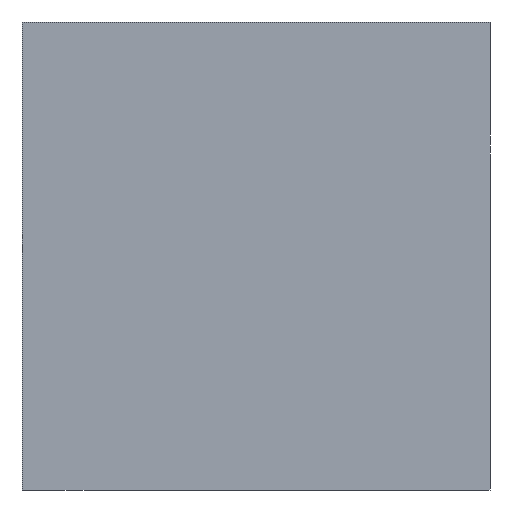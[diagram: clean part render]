
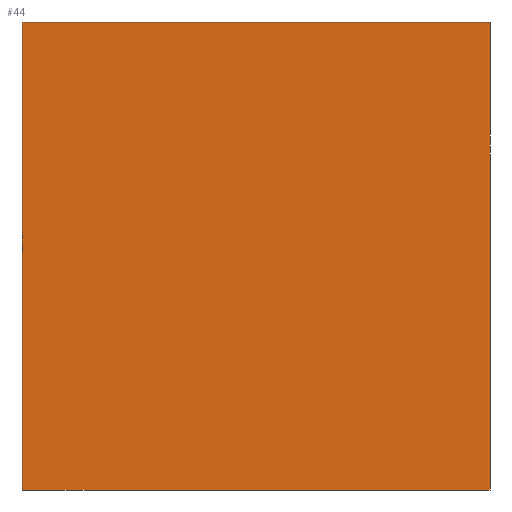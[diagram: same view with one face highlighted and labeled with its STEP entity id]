
A CAD part, front view. The second image highlights one B-rep face of the part: STEP entity #44.
In plain terms, the highlighted planar face has unit normal (0, -1, 0).
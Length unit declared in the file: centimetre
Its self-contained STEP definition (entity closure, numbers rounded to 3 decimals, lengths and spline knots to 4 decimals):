
#10 = DIRECTION ( 'NONE',  ( 0., 0., -1. ) ) ;
#22 = CARTESIAN_POINT ( 'NONE',  ( 1000., 0., 1000. ) ) ;
#44 = ADVANCED_FACE ( 'NONE', ( #73 ), #197, .F. ) ;
#56 = LINE ( 'NONE', #763, #230 ) ;
#57 = LINE ( 'NONE', #391, #677 ) ;
#66 = DIRECTION ( 'NONE',  ( 0., 0., -1. ) ) ;
#73 = FACE_OUTER_BOUND ( 'NONE', #126, .T. ) ;
#81 = CARTESIAN_POINT ( 'NONE',  ( 1000., 0., 1000. ) ) ;
#96 = DIRECTION ( 'NONE',  ( 1., 0., 0. ) ) ;
#101 = EDGE_CURVE ( 'NONE', #571, #585, #57, .T. ) ;
#126 = EDGE_LOOP ( 'NONE', ( #507, #447, #300, #466 ) ) ;
#135 = CARTESIAN_POINT ( 'NONE',  ( 0., 0., 1000. ) ) ;
#149 = LINE ( 'NONE', #81, #223 ) ;
#197 = PLANE ( 'NONE',  #347 ) ;
#221 = EDGE_CURVE ( 'NONE', #753, #849, #149, .T. ) ;
#223 = VECTOR ( 'NONE', #10, 100. ) ;
#230 = VECTOR ( 'NONE', #96, 100. ) ;
#300 = ORIENTED_EDGE ( 'NONE', *, *, #664, .F. ) ;
#311 = DIRECTION ( 'NONE',  ( 0., 1., 0. ) ) ;
#347 = AXIS2_PLACEMENT_3D ( 'NONE', #135, #311, #458 ) ;
#391 = CARTESIAN_POINT ( 'NONE',  ( 0., 0., 1000. ) ) ;
#411 = LINE ( 'NONE', #532, #489 ) ;
#447 = ORIENTED_EDGE ( 'NONE', *, *, #221, .F. ) ;
#458 = DIRECTION ( 'NONE',  ( 0., 0., 1. ) ) ;
#466 = ORIENTED_EDGE ( 'NONE', *, *, #101, .T. ) ;
#489 = VECTOR ( 'NONE', #617, 100. ) ;
#505 = EDGE_CURVE ( 'NONE', #585, #849, #56, .T. ) ;
#507 = ORIENTED_EDGE ( 'NONE', *, *, #505, .T. ) ;
#532 = CARTESIAN_POINT ( 'NONE',  ( 0., 0., 1000. ) ) ;
#571 = VERTEX_POINT ( 'NONE', #735 ) ;
#585 = VERTEX_POINT ( 'NONE', #809 ) ;
#617 = DIRECTION ( 'NONE',  ( 1., 0., 0. ) ) ;
#630 = CARTESIAN_POINT ( 'NONE',  ( 1000., 0., 0. ) ) ;
#664 = EDGE_CURVE ( 'NONE', #571, #753, #411, .T. ) ;
#677 = VECTOR ( 'NONE', #66, 100. ) ;
#735 = CARTESIAN_POINT ( 'NONE',  ( 0., 0., 1000. ) ) ;
#753 = VERTEX_POINT ( 'NONE', #22 ) ;
#763 = CARTESIAN_POINT ( 'NONE',  ( 0., 0., 0. ) ) ;
#809 = CARTESIAN_POINT ( 'NONE',  ( 0., 0., 0. ) ) ;
#849 = VERTEX_POINT ( 'NONE', #630 ) ;
